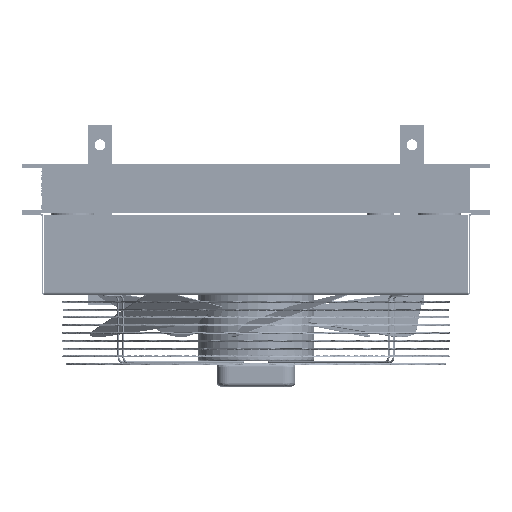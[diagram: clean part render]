
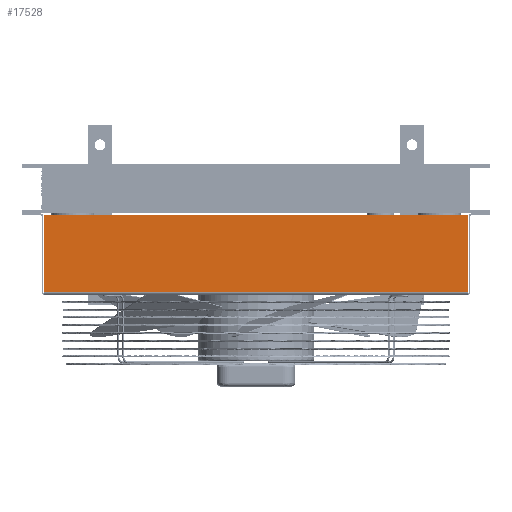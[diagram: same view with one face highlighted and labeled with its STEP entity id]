
A CAD part, left-side view. The second image highlights one B-rep face of the part: STEP entity #17528.
In plain terms, the highlighted planar face has unit normal (-1, 0, 0) as drawn and (0, -1, 0) by its records, which use the part's own axes.
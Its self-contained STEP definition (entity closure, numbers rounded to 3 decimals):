
#202 = CARTESIAN_POINT ( 'NONE',  ( 272.263, -267., 2. ) ) ;
#1978 = DIRECTION ( 'NONE',  ( 0., 0., 1. ) ) ;
#2227 = ORIENTED_EDGE ( 'NONE', *, *, #7085, .F. ) ;
#2901 = CARTESIAN_POINT ( 'NONE',  ( 272.263, -267., 102. ) ) ;
#3051 = AXIS2_PLACEMENT_3D ( 'NONE', #202, #5157, #14525 ) ;
#3346 = CARTESIAN_POINT ( 'NONE',  ( 272.263, -267., 2.737 ) ) ;
#3473 = VERTEX_POINT ( 'NONE', #6322 ) ;
#5157 = DIRECTION ( 'NONE',  ( 0., -1., 0. ) ) ;
#5282 = CARTESIAN_POINT ( 'NONE',  ( 272.263, -267., 2. ) ) ;
#5413 = VECTOR ( 'NONE', #10112, 1000. ) ;
#5662 = ORIENTED_EDGE ( 'NONE', *, *, #9463, .T. ) ;
#5813 = LINE ( 'NONE', #5282, #6080 ) ;
#6080 = VECTOR ( 'NONE', #1978, 1000. ) ;
#6322 = CARTESIAN_POINT ( 'NONE',  ( 272.263, -267., 2.737 ) ) ;
#6832 = CARTESIAN_POINT ( 'NONE',  ( 272.263, -267., 102. ) ) ;
#7085 = EDGE_CURVE ( 'NONE', #3473, #15539, #8680, .T. ) ;
#8172 = DIRECTION ( 'NONE',  ( -1., 0., 0. ) ) ;
#8680 = LINE ( 'NONE', #3346, #18878 ) ;
#9463 = EDGE_CURVE ( 'NONE', #14775, #15539, #12773, .T. ) ;
#10112 = DIRECTION ( 'NONE',  ( -1., 0., 0. ) ) ;
#10161 = CARTESIAN_POINT ( 'NONE',  ( -272.263, -267., 2. ) ) ;
#11445 = EDGE_LOOP ( 'NONE', ( #18717, #15217, #5662, #2227 ) ) ;
#12770 = CARTESIAN_POINT ( 'NONE',  ( -272.263, -267., 102. ) ) ;
#12773 = LINE ( 'NONE', #10161, #18009 ) ;
#13003 = FACE_OUTER_BOUND ( 'NONE', #11445, .T. ) ;
#13048 = PLANE ( 'NONE',  #3051 ) ;
#14208 = LINE ( 'NONE', #6832, #5413 ) ;
#14404 = EDGE_CURVE ( 'NONE', #3473, #17868, #5813, .T. ) ;
#14525 = DIRECTION ( 'NONE',  ( 0., 0., -1. ) ) ;
#14775 = VERTEX_POINT ( 'NONE', #12770 ) ;
#15052 = DIRECTION ( 'NONE',  ( 0., 0., -1. ) ) ;
#15217 = ORIENTED_EDGE ( 'NONE', *, *, #18921, .T. ) ;
#15539 = VERTEX_POINT ( 'NONE', #16517 ) ;
#16517 = CARTESIAN_POINT ( 'NONE',  ( -272.263, -267., 2.737 ) ) ;
#17528 = ADVANCED_FACE ( 'NONE', ( #13003 ), #13048, .T. ) ;
#17868 = VERTEX_POINT ( 'NONE', #2901 ) ;
#18009 = VECTOR ( 'NONE', #15052, 1000. ) ;
#18717 = ORIENTED_EDGE ( 'NONE', *, *, #14404, .T. ) ;
#18878 = VECTOR ( 'NONE', #8172, 1000. ) ;
#18921 = EDGE_CURVE ( 'NONE', #17868, #14775, #14208, .T. ) ;
